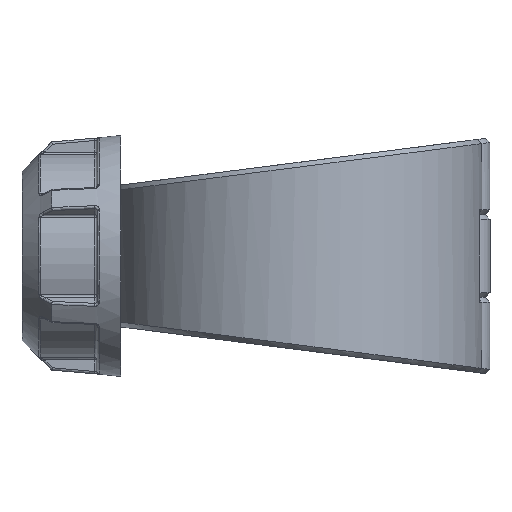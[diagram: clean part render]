
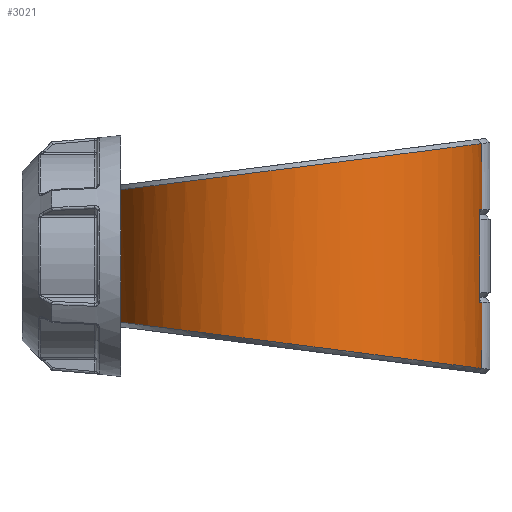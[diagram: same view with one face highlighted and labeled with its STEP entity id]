
A CAD part, left-side view. The second image highlights one B-rep face of the part: STEP entity #3021.
In plain terms, the highlighted cylindrical face has radius 78.5 mm (diameter 157 mm), a partial arc.
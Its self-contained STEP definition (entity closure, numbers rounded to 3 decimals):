
#212=FACE_OUTER_BOUND('',#416,.T.);
#416=EDGE_LOOP('',(#2055,#2056,#2057,#2058,#2059,#2060,#2061,#2062,#2063,
#2064,#2065,#2066));
#623=CIRCLE('',#3251,78.5);
#626=CIRCLE('',#3256,78.5);
#805=B_SPLINE_CURVE_WITH_KNOTS('',3,(#4512,#4513,#4514,#4515),
 .UNSPECIFIED.,.F.,.F.,(4,4),(-0.002,0.),.UNSPECIFIED.);
#806=B_SPLINE_CURVE_WITH_KNOTS('',3,(#4517,#4518,#4519,#4520),
 .UNSPECIFIED.,.F.,.F.,(4,4),(-3.042,-3.042),
 .UNSPECIFIED.);
#807=B_SPLINE_CURVE_WITH_KNOTS('',3,(#4521,#4522,#4523,#4524,#4525,#4526,
#4527,#4528,#4529,#4530),.UNSPECIFIED.,.F.,.F.,(4,1,1,1,1,1,1,4),(0.317,
0.63,1.034,1.438,1.842,2.246,
2.65,3.042),.UNSPECIFIED.);
#808=B_SPLINE_CURVE_WITH_KNOTS('',3,(#4532,#4533,#4534,#4535,#4536,#4537,
#4538,#4539,#4540,#4541),.UNSPECIFIED.,.F.,.F.,(4,1,1,1,1,1,1,4),(-3.042,
-2.65,-2.246,-1.842,-1.438,
-1.034,-0.63,-0.317),.UNSPECIFIED.);
#809=B_SPLINE_CURVE_WITH_KNOTS('',3,(#4543,#4544,#4545,#4546),
 .UNSPECIFIED.,.F.,.F.,(4,4),(3.042,3.042),
 .UNSPECIFIED.);
#810=B_SPLINE_CURVE_WITH_KNOTS('',3,(#4548,#4549,#4550,#4551),
 .UNSPECIFIED.,.F.,.F.,(4,4),(-0.391,-0.389),
 .UNSPECIFIED.);
#972=LINE('',#4391,#1093);
#979=LINE('',#4446,#1100);
#985=LINE('',#4510,#1106);
#986=LINE('',#4552,#1107);
#1093=VECTOR('',#3575,10.);
#1100=VECTOR('',#3592,10.);
#1106=VECTOR('',#3638,10.);
#1107=VECTOR('',#3639,10.);
#1216=VERTEX_POINT('',#4376);
#1217=VERTEX_POINT('',#4390);
#1229=VERTEX_POINT('',#4440);
#1230=VERTEX_POINT('',#4445);
#1236=VERTEX_POINT('',#4466);
#1239=VERTEX_POINT('',#4487);
#1243=VERTEX_POINT('',#4509);
#1244=VERTEX_POINT('',#4511);
#1245=VERTEX_POINT('',#4516);
#1246=VERTEX_POINT('',#4531);
#1247=VERTEX_POINT('',#4542);
#1248=VERTEX_POINT('',#4547);
#1510=EDGE_CURVE('',#1216,#1217,#972,.T.);
#1524=EDGE_CURVE('',#1229,#1230,#979,.T.);
#1537=EDGE_CURVE('',#1236,#1229,#623,.T.);
#1542=EDGE_CURVE('',#1230,#1239,#626,.T.);
#1548=EDGE_CURVE('',#1243,#1236,#985,.T.);
#1549=EDGE_CURVE('',#1244,#1243,#805,.T.);
#1550=EDGE_CURVE('',#1244,#1245,#806,.T.);
#1551=EDGE_CURVE('',#1217,#1245,#807,.T.);
#1552=EDGE_CURVE('',#1246,#1216,#808,.T.);
#1553=EDGE_CURVE('',#1246,#1247,#809,.T.);
#1554=EDGE_CURVE('',#1248,#1247,#810,.T.);
#1555=EDGE_CURVE('',#1239,#1248,#986,.T.);
#2055=ORIENTED_EDGE('',*,*,#1542,.F.);
#2056=ORIENTED_EDGE('',*,*,#1524,.F.);
#2057=ORIENTED_EDGE('',*,*,#1537,.F.);
#2058=ORIENTED_EDGE('',*,*,#1548,.F.);
#2059=ORIENTED_EDGE('',*,*,#1549,.F.);
#2060=ORIENTED_EDGE('',*,*,#1550,.T.);
#2061=ORIENTED_EDGE('',*,*,#1551,.F.);
#2062=ORIENTED_EDGE('',*,*,#1510,.F.);
#2063=ORIENTED_EDGE('',*,*,#1552,.F.);
#2064=ORIENTED_EDGE('',*,*,#1553,.T.);
#2065=ORIENTED_EDGE('',*,*,#1554,.F.);
#2066=ORIENTED_EDGE('',*,*,#1555,.F.);
#2962=CYLINDRICAL_SURFACE('',#3261,78.5);
#3021=ADVANCED_FACE('',(#212),#2962,.T.);
#3251=AXIS2_PLACEMENT_3D('',#4482,#3614,#3615);
#3256=AXIS2_PLACEMENT_3D('',#4496,#3624,#3625);
#3261=AXIS2_PLACEMENT_3D('',#4508,#3636,#3637);
#3575=DIRECTION('',(0.,0.,1.));
#3592=DIRECTION('',(0.,0.,-1.));
#3614=DIRECTION('center_axis',(0.,0.,-1.));
#3615=DIRECTION('ref_axis',(0.312,-0.95,0.));
#3624=DIRECTION('center_axis',(0.,0.,1.));
#3625=DIRECTION('ref_axis',(0.312,-0.95,0.));
#3636=DIRECTION('center_axis',(0.,0.,1.));
#3637=DIRECTION('ref_axis',(-0.312,0.95,0.));
#3638=DIRECTION('',(0.,0.,-1.));
#3639=DIRECTION('',(0.,0.,-1.));
#4376=CARTESIAN_POINT('',(-24.512,74.575,-27.998));
#4390=CARTESIAN_POINT('',(-24.512,74.575,27.998));
#4391=CARTESIAN_POINT('',(-24.512,74.575,0.));
#4440=CARTESIAN_POINT('',(-14.221,-77.201,19.5));
#4445=CARTESIAN_POINT('',(-14.221,-77.201,-19.5));
#4446=CARTESIAN_POINT('',(-14.221,-77.201,0.));
#4466=CARTESIAN_POINT('',(-7.767,-78.115,19.5));
#4482=CARTESIAN_POINT('Origin',(0.,0.,19.5));
#4487=CARTESIAN_POINT('',(-7.767,-78.115,-19.5));
#4496=CARTESIAN_POINT('Origin',(0.,0.,-19.5));
#4508=CARTESIAN_POINT('Origin',(0.,0.,0.));
#4509=CARTESIAN_POINT('',(-7.767,-78.115,47.539));
#4510=CARTESIAN_POINT('',(-7.767,-78.115,0.));
#4511=CARTESIAN_POINT('',(-7.754,-78.116,47.549));
#4512=CARTESIAN_POINT('Ctrl Pts',(-7.754,-78.116,47.549));
#4513=CARTESIAN_POINT('Ctrl Pts',(-7.758,-78.115,47.545));
#4514=CARTESIAN_POINT('Ctrl Pts',(-7.763,-78.115,47.542));
#4515=CARTESIAN_POINT('Ctrl Pts',(-7.767,-78.114,47.539));
#4516=CARTESIAN_POINT('',(-7.767,-78.115,47.549));
#4517=CARTESIAN_POINT('Ctrl Pts',(-7.754,-78.116,47.549));
#4518=CARTESIAN_POINT('Ctrl Pts',(-7.759,-78.116,47.549));
#4519=CARTESIAN_POINT('Ctrl Pts',(-7.763,-78.115,47.549));
#4520=CARTESIAN_POINT('Ctrl Pts',(-7.767,-78.115,47.549));
#4521=CARTESIAN_POINT('Ctrl Pts',(-24.511,74.572,27.999));
#4522=CARTESIAN_POINT('Ctrl Pts',(-32.319,72.002,28.327));
#4523=CARTESIAN_POINT('Ctrl Pts',(-49.273,63.309,29.436));
#4524=CARTESIAN_POINT('Ctrl Pts',(-69.438,41.08,32.276));
#4525=CARTESIAN_POINT('Ctrl Pts',(-79.986,10.445,36.194));
#4526=CARTESIAN_POINT('Ctrl Pts',(-77.658,-21.829,40.326));
#4527=CARTESIAN_POINT('Ctrl Pts',(-62.848,-50.55,44.009));
#4528=CARTESIAN_POINT('Ctrl Pts',(-38.227,-70.955,46.629));
#4529=CARTESIAN_POINT('Ctrl Pts',(-17.958,-77.1,47.418));
#4530=CARTESIAN_POINT('Ctrl Pts',(-7.767,-78.115,47.549));
#4531=CARTESIAN_POINT('',(-7.767,-78.115,-47.549));
#4532=CARTESIAN_POINT('Ctrl Pts',(-7.767,-78.115,-47.548));
#4533=CARTESIAN_POINT('Ctrl Pts',(-17.958,-77.1,-47.418));
#4534=CARTESIAN_POINT('Ctrl Pts',(-38.223,-70.951,-46.628));
#4535=CARTESIAN_POINT('Ctrl Pts',(-62.85,-50.553,-44.01));
#4536=CARTESIAN_POINT('Ctrl Pts',(-77.658,-21.828,-40.326));
#4537=CARTESIAN_POINT('Ctrl Pts',(-79.986,10.445,-36.194));
#4538=CARTESIAN_POINT('Ctrl Pts',(-69.438,41.08,-32.276));
#4539=CARTESIAN_POINT('Ctrl Pts',(-49.273,63.309,-29.436));
#4540=CARTESIAN_POINT('Ctrl Pts',(-32.319,72.001,-28.327));
#4541=CARTESIAN_POINT('Ctrl Pts',(-24.511,74.572,-27.999));
#4542=CARTESIAN_POINT('',(-7.754,-78.116,-47.549));
#4543=CARTESIAN_POINT('Ctrl Pts',(-7.767,-78.115,-47.548));
#4544=CARTESIAN_POINT('Ctrl Pts',(-7.763,-78.115,-47.549));
#4545=CARTESIAN_POINT('Ctrl Pts',(-7.759,-78.116,-47.549));
#4546=CARTESIAN_POINT('Ctrl Pts',(-7.754,-78.116,-47.549));
#4547=CARTESIAN_POINT('',(-7.767,-78.115,-47.539));
#4548=CARTESIAN_POINT('Ctrl Pts',(-7.767,-78.114,-47.539));
#4549=CARTESIAN_POINT('Ctrl Pts',(-7.763,-78.115,-47.542));
#4550=CARTESIAN_POINT('Ctrl Pts',(-7.758,-78.115,-47.545));
#4551=CARTESIAN_POINT('Ctrl Pts',(-7.754,-78.116,-47.549));
#4552=CARTESIAN_POINT('',(-7.767,-78.115,0.));
